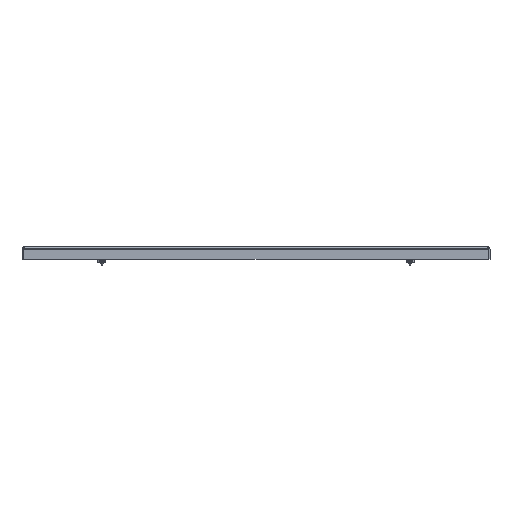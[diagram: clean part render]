
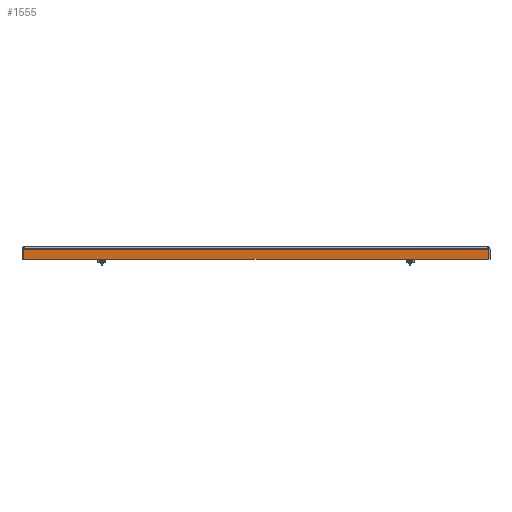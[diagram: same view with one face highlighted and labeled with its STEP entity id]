
A CAD part, front view. The second image highlights one B-rep face of the part: STEP entity #1555.
In plain terms, the highlighted planar face has unit normal (0, -1, 0).
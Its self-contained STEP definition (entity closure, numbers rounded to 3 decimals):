
#55 = DIRECTION ( 'NONE',  ( 0., 1., 0. ) ) ;
#232 = VERTEX_POINT ( 'NONE', #12194 ) ;
#513 = DIRECTION ( 'NONE',  ( -1., 0., 0. ) ) ;
#672 = DIRECTION ( 'NONE',  ( 0., 0., 1. ) ) ;
#784 = CARTESIAN_POINT ( 'NONE',  ( 279.709, -398.5, -1.4 ) ) ;
#1041 = EDGE_CURVE ( 'NONE', #11819, #10233, #2943, .T. ) ;
#1243 = ORIENTED_EDGE ( 'NONE', *, *, #11398, .T. ) ;
#1555 = ADVANCED_FACE ( 'NONE', ( #10454 ), #1715, .F. ) ;
#1622 = VERTEX_POINT ( 'NONE', #10708 ) ;
#1642 = DIRECTION ( 'NONE',  ( 0., -1., 0. ) ) ;
#1715 = PLANE ( 'NONE',  #9457 ) ;
#1815 = ORIENTED_EDGE ( 'NONE', *, *, #1041, .T. ) ;
#1817 = EDGE_CURVE ( 'NONE', #4212, #5316, #3239, .T. ) ;
#1825 = EDGE_LOOP ( 'NONE', ( #4955, #1815, #4969, #3782, #8380, #1243 ) ) ;
#2852 = CIRCLE ( 'NONE', #6111, 0.5 ) ;
#2943 = CIRCLE ( 'NONE', #9054, 0.5 ) ;
#3239 = LINE ( 'NONE', #11022, #12505 ) ;
#3782 = ORIENTED_EDGE ( 'NONE', *, *, #1817, .F. ) ;
#4212 = VERTEX_POINT ( 'NONE', #8661 ) ;
#4351 = EDGE_CURVE ( 'NONE', #4212, #1622, #6413, .T. ) ;
#4692 = DIRECTION ( 'NONE',  ( 0., 0., 1. ) ) ;
#4955 = ORIENTED_EDGE ( 'NONE', *, *, #9403, .F. ) ;
#4969 = ORIENTED_EDGE ( 'NONE', *, *, #6421, .F. ) ;
#5316 = VERTEX_POINT ( 'NONE', #7099 ) ;
#5333 = CARTESIAN_POINT ( 'NONE',  ( -279.709, -398.5, 0. ) ) ;
#5413 = VECTOR ( 'NONE', #8403, 1000. ) ;
#5572 = DIRECTION ( 'NONE',  ( 0., 0., 1. ) ) ;
#6111 = AXIS2_PLACEMENT_3D ( 'NONE', #12458, #1642, #5572 ) ;
#6413 = LINE ( 'NONE', #5333, #5413 ) ;
#6421 = EDGE_CURVE ( 'NONE', #5316, #10233, #8450, .T. ) ;
#6431 = LINE ( 'NONE', #9442, #7105 ) ;
#7099 = CARTESIAN_POINT ( 'NONE',  ( 279.709, -398.5, -2.9 ) ) ;
#7105 = VECTOR ( 'NONE', #513, 1000. ) ;
#7666 = DIRECTION ( 'NONE',  ( 0., 0., -1. ) ) ;
#8380 = ORIENTED_EDGE ( 'NONE', *, *, #4351, .T. ) ;
#8382 = CARTESIAN_POINT ( 'NONE',  ( 279.209, -398.5, -15. ) ) ;
#8403 = DIRECTION ( 'NONE',  ( 0., 0., -1. ) ) ;
#8450 = LINE ( 'NONE', #784, #8885 ) ;
#8660 = CARTESIAN_POINT ( 'NONE',  ( 0., -398.5, 0. ) ) ;
#8661 = CARTESIAN_POINT ( 'NONE',  ( -279.709, -398.5, -2.9 ) ) ;
#8885 = VECTOR ( 'NONE', #7666, 1000. ) ;
#8920 = DIRECTION ( 'NONE',  ( 1., 0., 0. ) ) ;
#9054 = AXIS2_PLACEMENT_3D ( 'NONE', #12524, #12402, #672 ) ;
#9403 = EDGE_CURVE ( 'NONE', #11819, #232, #6431, .T. ) ;
#9442 = CARTESIAN_POINT ( 'NONE',  ( 281.25, -398.5, -15. ) ) ;
#9457 = AXIS2_PLACEMENT_3D ( 'NONE', #8660, #55, #4692 ) ;
#10233 = VERTEX_POINT ( 'NONE', #10393 ) ;
#10393 = CARTESIAN_POINT ( 'NONE',  ( 279.709, -398.5, -14.5 ) ) ;
#10454 = FACE_OUTER_BOUND ( 'NONE', #1825, .T. ) ;
#10708 = CARTESIAN_POINT ( 'NONE',  ( -279.709, -398.5, -14.5 ) ) ;
#11022 = CARTESIAN_POINT ( 'NONE',  ( 281.25, -398.5, -2.9 ) ) ;
#11398 = EDGE_CURVE ( 'NONE', #1622, #232, #2852, .T. ) ;
#11819 = VERTEX_POINT ( 'NONE', #8382 ) ;
#12194 = CARTESIAN_POINT ( 'NONE',  ( -279.209, -398.5, -15. ) ) ;
#12402 = DIRECTION ( 'NONE',  ( 0., -1., 0. ) ) ;
#12458 = CARTESIAN_POINT ( 'NONE',  ( -279.209, -398.5, -14.5 ) ) ;
#12505 = VECTOR ( 'NONE', #8920, 1000. ) ;
#12524 = CARTESIAN_POINT ( 'NONE',  ( 279.209, -398.5, -14.5 ) ) ;
